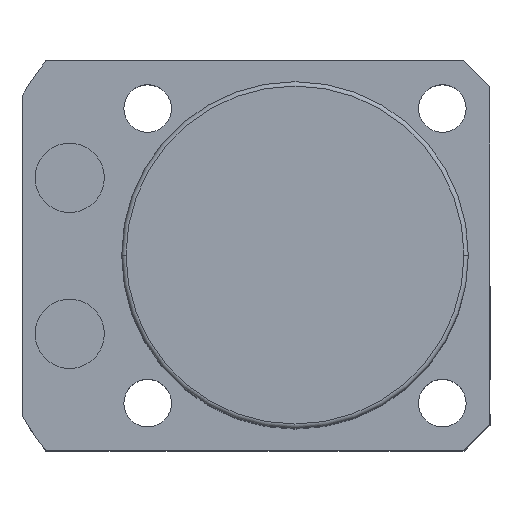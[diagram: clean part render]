
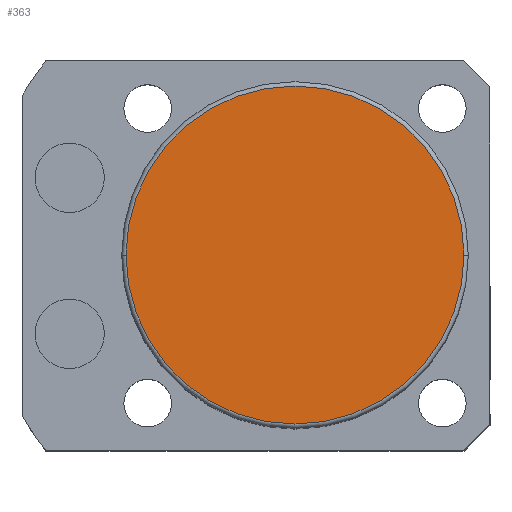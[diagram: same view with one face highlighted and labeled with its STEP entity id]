
A CAD part, top view. The second image highlights one B-rep face of the part: STEP entity #363.
In plain terms, the highlighted planar face has unit normal (0, 0, 1).
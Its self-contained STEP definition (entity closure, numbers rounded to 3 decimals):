
#124 = DIRECTION ( 'NONE',  ( 1., 0., 0. ) ) ;
#222 = DIRECTION ( 'NONE',  ( 0., 0., 1. ) ) ;
#243 = CARTESIAN_POINT ( 'NONE',  ( 0., 0., 63.5 ) ) ;
#314 = CARTESIAN_POINT ( 'NONE',  ( 0., 0., 63.5 ) ) ;
#316 = VERTEX_POINT ( 'NONE', #2473 ) ;
#363 = ADVANCED_FACE ( 'NONE', ( #1558 ), #1192, .T. ) ;
#440 = ORIENTED_EDGE ( 'NONE', *, *, #2475, .T. ) ;
#680 = CIRCLE ( 'NONE', #2349, 19.5 ) ;
#934 = AXIS2_PLACEMENT_3D ( 'NONE', #1839, #2059, #124 ) ;
#1120 = DIRECTION ( 'NONE',  ( 0., 0., 1. ) ) ;
#1192 = PLANE ( 'NONE',  #934 ) ;
#1207 = CIRCLE ( 'NONE', #2581, 19.5 ) ;
#1326 = DIRECTION ( 'NONE',  ( 1., 0., 0. ) ) ;
#1558 = FACE_OUTER_BOUND ( 'NONE', #1779, .T. ) ;
#1779 = EDGE_LOOP ( 'NONE', ( #440, #2034 ) ) ;
#1839 = CARTESIAN_POINT ( 'NONE',  ( 0., 0., 63.5 ) ) ;
#2034 = ORIENTED_EDGE ( 'NONE', *, *, #2725, .T. ) ;
#2059 = DIRECTION ( 'NONE',  ( 0., 0., 1. ) ) ;
#2224 = CARTESIAN_POINT ( 'NONE',  ( -19.5, 0., 63.5 ) ) ;
#2317 = VERTEX_POINT ( 'NONE', #2224 ) ;
#2349 = AXIS2_PLACEMENT_3D ( 'NONE', #243, #222, #2558 ) ;
#2473 = CARTESIAN_POINT ( 'NONE',  ( 19.5, 0., 63.5 ) ) ;
#2475 = EDGE_CURVE ( 'NONE', #316, #2317, #680, .T. ) ;
#2558 = DIRECTION ( 'NONE',  ( 1., 0., 0. ) ) ;
#2581 = AXIS2_PLACEMENT_3D ( 'NONE', #314, #1120, #1326 ) ;
#2725 = EDGE_CURVE ( 'NONE', #2317, #316, #1207, .T. ) ;
